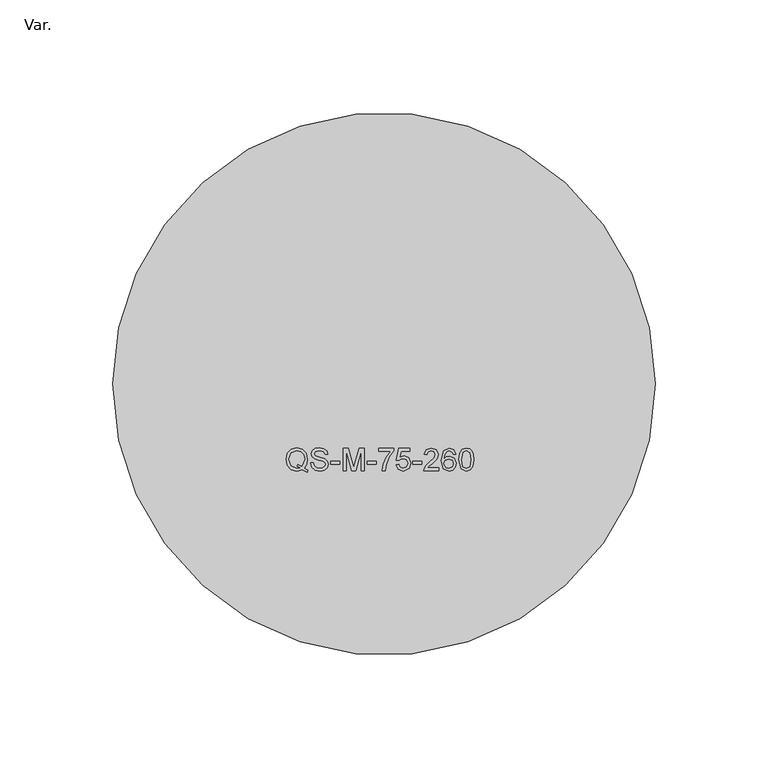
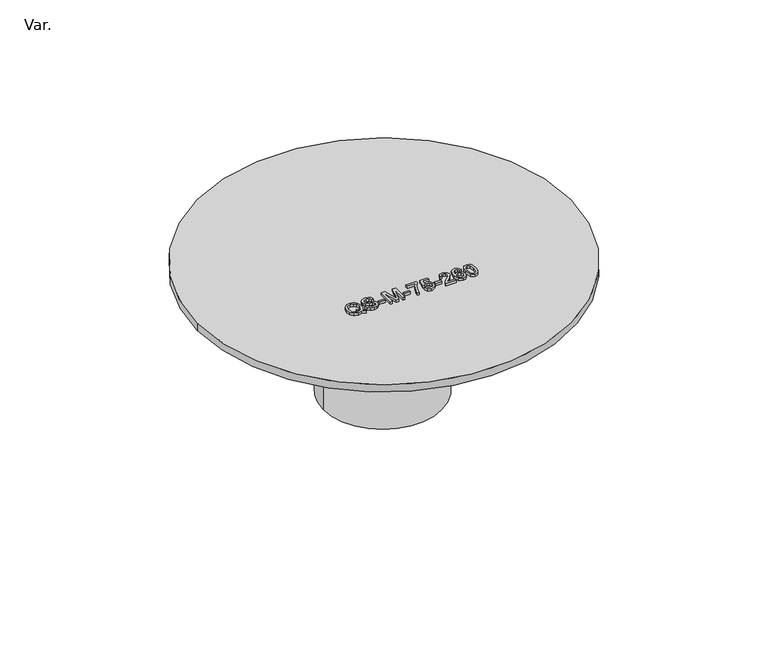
"""IFC4 building model written with IfcOpenShell, lengths in millimetres: sanitary terminal geometry, AmancoWavin_AquipamentosHidráulicos_QSBocaldeCaptação : Var.."""

from ifc_helpers import new_model, si_unit, point, frame, frame_2d, origin, place, context, project, spatial, polyline, circle_curve, ellipse_curve, trimmed, segment, composite_curve, outline, extrude, source, transform, mapped, element, save
from ifc_brep_helpers import plane_surface, cylinder_surface, revolved_surface, advanced_brep


def var_5cb2a67e(model_context):
    return source(origin(), model_context, "Body", "SolidModel", [
        advanced_brep(
        [(36.1500013, 0.0, -61.0), (-36.1500013, 0.0, -61.0), (-38.1500013, 0.0, -63.2980538), (38.1500013, 0.0, -63.2980538), (0.0, 0.0, -61.0), (62.9019224, 0.0, 0.4999995), (-62.9019224, 0.0, 0.4999995), (0.0, 0.0, 0.4999995), (43.4999988, 0.0, -10.7017063), (-43.4999988, 0.0, -10.7017063), (35.9999985, 0.0, -23.692088), (-35.9999985, 0.0, -23.692088), (35.9999985, 0.0, -26.0000021), (-35.9999985, 0.0, -26.0000021), (38.1500013, 0.0, -26.0000021), (-38.1500013, 0.0, -26.0000021), (38.1500013, 0.0, -27.5000014), (-38.1500013, 0.0, -27.5000014), (39.9999991, 0.0, -27.5000014), (-39.9999991, 0.0, -27.5000014), (39.9999991, 0.0, -36.0), (-39.9999991, 0.0, -36.0), (38.1500013, 0.0, -36.0), (-38.1500013, 0.0, -36.0)],
        [
            (0, 1, circle_curve(frame((0.0, 0.0, -61.0), z_axis=(0.0, 0.0, 1.0), x_axis=(-1.0, 0.0, 0.0)), 36.1500013)),
            (1, 2),
            (2, 3, circle_curve(frame((0.0, 0.0, -63.2980538), z_axis=(0.0, 0.0, -1.0), x_axis=(-1.0, 0.0, 0.0)), 38.1500013)),
            (3, 0),
            (1, 0, circle_curve(frame((0.0, 0.0, -61.0), z_axis=(0.0, 0.0, 1.0), x_axis=(-1.0, 0.0, 0.0)), 36.1500013)),
            (3, 2, circle_curve(frame((0.0, 0.0, -63.2980538), z_axis=(0.0, 0.0, -1.0), x_axis=(-1.0, 0.0, 0.0)), 38.1500013)),
            (4, 1),
            (0, 4),
            (5, 6, circle_curve(frame((0.0, 0.0, 0.4999995), z_axis=(0.0, 0.0, 1.0), x_axis=(-1.0, 0.0, 0.0)), 62.9019224)),
            (6, 7),
            (7, 5),
            (6, 5, circle_curve(frame((0.0, 0.0, 0.4999995), z_axis=(0.0, 0.0, 1.0), x_axis=(-1.0, 0.0, 0.0)), 62.9019224)),
            (8, 9, circle_curve(frame((0.0, 0.0, -10.7017063), z_axis=(0.0, 0.0, 1.0), x_axis=(-1.0, 0.0, 0.0)), 43.4999988)),
            (9, 6),
            (5, 8),
            (9, 8, circle_curve(frame((0.0, 0.0, -10.7017063), z_axis=(0.0, 0.0, 1.0), x_axis=(-1.0, 0.0, 0.0)), 43.4999988)),
            (10, 11, circle_curve(frame((0.0, 0.0, -23.692088), z_axis=(0.0, 0.0, 1.0), x_axis=(-1.0, 0.0, 0.0)), 35.9999985)),
            (11, 9, circle_curve(frame((-50.9999992, 0.0, -23.692088), z_axis=(0.0, -1.0, 0.0), x_axis=(1.0, 0.0, 0.0)), 15.0000007)),
            (8, 10, circle_curve(frame((50.9999992, 0.0, -23.692088), z_axis=(0.0, -1.0, 0.0), x_axis=(-1.0, 0.0, 0.0)), 15.0000007)),
            (11, 10, circle_curve(frame((0.0, 0.0, -23.692088), z_axis=(0.0, 0.0, 1.0), x_axis=(-1.0, 0.0, 0.0)), 35.9999985)),
            (12, 13, circle_curve(frame((0.0, 0.0, -26.0000021), z_axis=(0.0, 0.0, 1.0), x_axis=(-1.0, 0.0, 0.0)), 35.9999985)),
            (13, 11),
            (10, 12),
            (13, 12, circle_curve(frame((0.0, 0.0, -26.0000021), z_axis=(0.0, 0.0, 1.0), x_axis=(-1.0, 0.0, 0.0)), 35.9999985)),
            (14, 15, circle_curve(frame((0.0, 0.0, -26.0000021), z_axis=(0.0, 0.0, 1.0), x_axis=(-1.0, 0.0, 0.0)), 38.1500013)),
            (15, 13),
            (12, 14),
            (15, 14, circle_curve(frame((0.0, 0.0, -26.0000021), z_axis=(0.0, 0.0, 1.0), x_axis=(-1.0, 0.0, 0.0)), 38.1500013)),
            (16, 17, circle_curve(frame((0.0, 0.0, -27.5000014), z_axis=(0.0, 0.0, 1.0), x_axis=(-1.0, 0.0, 0.0)), 38.1500013)),
            (17, 15),
            (14, 16),
            (17, 16, circle_curve(frame((0.0, 0.0, -27.5000014), z_axis=(0.0, 0.0, 1.0), x_axis=(-1.0, 0.0, 0.0)), 38.1500013)),
            (18, 19, circle_curve(frame((0.0, 0.0, -27.5000014), z_axis=(0.0, 0.0, 1.0), x_axis=(-1.0, 0.0, 0.0)), 39.9999991)),
            (19, 17),
            (16, 18),
            (19, 18, circle_curve(frame((0.0, 0.0, -27.5000014), z_axis=(0.0, 0.0, 1.0), x_axis=(-1.0, 0.0, 0.0)), 39.9999991)),
            (20, 21, circle_curve(frame((0.0, 0.0, -36.0), z_axis=(0.0, 0.0, 1.0), x_axis=(-1.0, 0.0, 0.0)), 39.9999991)),
            (21, 19),
            (18, 20),
            (21, 20, circle_curve(frame((0.0, 0.0, -36.0), z_axis=(0.0, 0.0, 1.0), x_axis=(-1.0, 0.0, 0.0)), 39.9999991)),
            (22, 23, circle_curve(frame((0.0, 0.0, -36.0), z_axis=(0.0, 0.0, 1.0), x_axis=(-1.0, 0.0, 0.0)), 38.1500013)),
            (23, 21),
            (20, 22),
            (23, 22, circle_curve(frame((0.0, 0.0, -36.0), z_axis=(0.0, 0.0, 1.0), x_axis=(-1.0, 0.0, 0.0)), 38.1500013)),
            (2, 23),
            (22, 3),
        ],
        [
            revolved_surface(polyline([(-38.1500013, 0.0, -63.2980538), (-36.1500013, 0.0, -61.0)]), (0.0, 0.0, -61.0000003), (0.0, 0.0, -1.0)),
            plane_surface(frame((0.0, 0.0, -61.0), z_axis=(0.0, 0.0, -1.0), x_axis=(-1.0, 0.0, 0.0))),
            plane_surface(frame((0.0, 0.0, 0.4999995), z_axis=(0.0, 0.0, 1.0), x_axis=(-1.0, 0.0, 0.0))),
            revolved_surface(polyline([(-62.9019224, 0.0, 0.4999995), (-43.4999988, 0.0, -10.7017063)]), (0.0, 0.0, -61.0000003), (0.0, 0.0, -1.0)),
            revolved_surface(trimmed(ellipse_curve(frame((-50.9999992, 0.0, -23.692088), z_axis=(0.0, 1.0, 0.0), x_axis=(1.0, 0.0, 0.0)), 15.0000007, 15.0000007), [point((-43.4999988, 0.0, -10.7017063))], [point((-35.9999985, 0.0, -23.692088))], True, "CARTESIAN"), (0.0, 0.0, -61.0000003), (0.0, 0.0, -1.0)),
            cylinder_surface(frame((0.0, 0.0, -61.0000003), z_axis=(0.0, 0.0, -1.0), x_axis=(-1.0, 0.0, 0.0)), 35.9999985),
            plane_surface(frame((0.0, 0.0, -26.0000021), z_axis=(0.0, 0.0, 1.0), x_axis=(-1.0, 0.0, 0.0))),
            cylinder_surface(frame((0.0, 0.0, -61.0000003), z_axis=(0.0, 0.0, -1.0), x_axis=(-1.0, 0.0, 0.0)), 38.1500013),
            plane_surface(frame((0.0, 0.0, -27.5000014), z_axis=(0.0, 0.0, 1.0), x_axis=(-1.0, 0.0, 0.0))),
            cylinder_surface(frame((0.0, 0.0, -61.0000003), z_axis=(0.0, 0.0, -1.0), x_axis=(-1.0, 0.0, 0.0)), 39.9999991),
            plane_surface(frame((0.0, 0.0, -36.0), z_axis=(0.0, 0.0, -1.0), x_axis=(-1.0, 0.0, 0.0))),
        ],
        [
            (0, [[1, 2, 3, 4]]),
            (0, [[5, -4, 6, -2]]),
            (1, [[7, -1, 8]]),
            (1, [[-8, -5, -7]]),
            (2, [[9, 10, 11]]),
            (2, [[12, -11, -10]]),
            (3, [[13, 14, -9, 15]]),
            (3, [[16, -15, -12, -14]]),
            (4, [[17, 18, -13, 19]]),
            (4, [[20, -19, -16, -18]]),
            (5, [[21, 22, -17, 23]]),
            (5, [[24, -23, -20, -22]]),
            (6, [[25, 26, -21, 27]]),
            (6, [[28, -27, -24, -26]]),
            (7, [[29, 30, -25, 31]]),
            (7, [[32, -31, -28, -30]]),
            (8, [[33, 34, -29, 35]]),
            (8, [[36, -35, -32, -34]]),
            (9, [[37, 38, -33, 39]]),
            (9, [[40, -39, -36, -38]]),
            (10, [[41, 42, -37, 43]]),
            (10, [[44, -43, -40, -42]]),
            (7, [[-3, 45, -41, 46]]),
            (7, [[-6, -46, -44, -45]]),
        ],
    ),
        extrude(outline(composite_curve([segment(trimmed(circle_curve(frame_2d((0.8526232, 0.0)), 120.0), [point((120.8526232, 0.0))], [point((-119.1473768, 0.0))], False, "CARTESIAN"), True, "CONTINUOUS"), segment(trimmed(circle_curve(frame_2d((0.8526232, 0.0)), 120.0), [point((-119.1473768, 0.0))], [point((120.8526232, 0.0))], False, "CARTESIAN"), True, "CONTINUOUS")], self_intersect=False)), frame((0.0, 0.0, 18.96875), z_axis=(0.0, 0.0, 1.0), x_axis=(1.0, 0.0, 0.0)), (0.0, 0.0, 1.0), 5.0),
        extrude(outline(polyline([(-34.4411637, -37.2095962), (-32.8837966, -38.2568336), (-33.222248, -39.1765386), (-35.2897448, -38.0017687), (-37.7300287, -38.5707596), (-40.1752177, -37.9147033), (-41.8662486, -36.0703883), (-42.4585386, -33.3934336), (-41.8674749, -30.6968586), (-40.1850279, -28.8464122), (-37.7422915, -28.2112026), (-35.2836135, -28.8611274), (-33.6146555, -30.680917), (-33.0407596, -33.3198572), (-33.3890212, -35.5148865), (-34.4411637, -37.2095962)]), holes=[polyline([(-37.3842197, -35.5394119), (-35.4761384, -36.4934526), (-34.2964634, -33.3836234), (-34.7133964, -31.322258), (-35.9335383, -29.953737), (-37.7349338, -29.4669065), (-40.216911, -30.4516039), (-41.2028348, -33.3909811), (-40.2279475, -36.3009277), (-37.7373864, -37.3150557), (-36.3860332, -37.0575383), (-37.7079558, -36.5008102), (-37.3842197, -35.5394119)])]), frame((0.0, 0.0, 23.96875), z_axis=(0.0, 0.0, 1.0), x_axis=(1.0, 0.0, 0.0)), (0.0, 0.0, 1.0), 2.0),
        extrude(outline(polyline([(-31.6280927, -34.9606109), (-30.3723888, -34.9606109), (-29.9677186, -36.2175411), (-28.9793423, -37.0121662), (-27.4734787, -37.3150557), (-26.1613663, -37.0857426), (-25.3140114, -36.4554381), (-25.0356474, -35.6129883), (-25.2441138, -34.8293997), (-26.0976, -34.2591826), (-27.9259736, -33.7797097), (-29.8941422, -33.1604417), (-30.9622263, -32.2260214), (-31.3141667, -30.9776752), (-30.8788397, -29.5564244), (-29.6071943, -28.5533328), (-27.7457114, -28.2112026), (-25.7591486, -28.5692744), (-24.4347734, -29.6214169), (-23.9369065, -31.1934993), (-25.1926103, -31.1934993), (-25.9038489, -29.9034598), (-27.6966605, -29.4669065), (-29.4943771, -29.8985547), (-30.0584629, -30.940887), (-29.6586978, -31.811541), (-27.6083688, -32.5129694), (-25.3863615, -33.1432739), (-24.1711247, -34.1610807), (-23.7799435, -35.5811052), (-24.2299858, -37.08329), (-25.5249304, -38.1795784), (-27.4244278, -38.5707596), (-29.6672817, -38.1489215), (-31.0860799, -36.8785024), (-31.6280927, -34.9606109)])), frame((0.0, 0.0, 23.96875), z_axis=(0.0, 0.0, 1.0), x_axis=(1.0, 0.0, 0.0)), (0.0, 0.0, 1.0), 2.0),
        extrude(outline(polyline([(-22.6812026, -35.4314999), (-22.6812026, -34.175796), (-18.757128, -34.175796), (-18.757128, -35.4314999), (-22.6812026, -35.4314999)])), frame((0.0, 0.0, 23.96875), z_axis=(0.0, 0.0, 1.0), x_axis=(1.0, 0.0, 0.0)), (0.0, 0.0, 1.0), 2.0),
        extrude(outline(polyline([(-17.1874981, -38.4137966), (-17.1874981, -28.3681656), (-15.0268045, -28.3681656), (-12.9715705, -35.4486677), (-12.5570901, -36.9275533), (-12.108274, -35.3260404), (-10.0873756, -28.3681656), (-7.926682, -28.3681656), (-7.926682, -38.4137966), (-9.1823859, -38.4137966), (-9.1823859, -29.6238694), (-11.7060564, -38.4137966), (-13.4081238, -38.4137966), (-15.9317942, -29.6238694), (-15.9317942, -38.4137966), (-17.1874981, -38.4137966)])), frame((0.0, 0.0, 23.96875), z_axis=(0.0, 0.0, 1.0), x_axis=(1.0, 0.0, 0.0)), (0.0, 0.0, 1.0), 2.0),
        extrude(outline(polyline([(-6.5140152, -35.4314999), (-6.5140152, -34.175796), (-2.5899406, -34.175796), (-2.5899406, -35.4314999), (-6.5140152, -35.4314999)])), frame((0.0, 0.0, 23.96875), z_axis=(0.0, 0.0, 1.0), x_axis=(1.0, 0.0, 0.0)), (0.0, 0.0, 1.0), 2.0),
        extrude(outline(polyline([(-1.4911997, -29.7808324), (-1.4911997, -28.5251286), (5.1012457, -28.5251286), (5.1012457, -29.5404829), (3.2311789, -32.241963), (1.8001179, -35.6841122), (1.3341341, -38.4137966), (0.0784302, -38.4137966), (0.5775234, -35.5811052), (1.9472707, -32.3793056), (3.8455418, -29.7808324), (-1.4911997, -29.7808324)])), frame((0.0, 0.0, 23.96875), z_axis=(0.0, 0.0, 1.0), x_axis=(1.0, 0.0, 0.0)), (0.0, 0.0, 1.0), 2.0),
        extrude(outline(polyline([(6.1999866, -35.7454258), (7.4556905, -35.5884629), (8.0884475, -36.8821812), (9.4005599, -37.3150557), (10.9750949, -36.7129555), (11.5367281, -35.1151214), (11.0106568, -33.623973), (9.4201803, -33.0770551), (8.3177606, -33.2953318), (7.6126534, -33.86187), (6.3569496, -33.704907), (7.4556905, -28.5251286), (12.321543, -28.5251286), (12.321543, -29.7808324), (8.4710448, -29.7808324), (7.9339371, -32.547305), (9.7708945, -31.8213512), (11.9180991, -32.7214358), (12.7924319, -35.0366399), (12.0051645, -37.3665592), (9.3956548, -38.5707596), (7.179779, -37.7969811), (6.1999866, -35.7454258)])), frame((0.0, 0.0, 23.96875), z_axis=(0.0, 0.0, 1.0), x_axis=(1.0, 0.0, 0.0)), (0.0, 0.0, 1.0), 2.0),
        extrude(outline(polyline([(13.5772469, -35.4314999), (13.5772469, -34.175796), (17.5013215, -34.175796), (17.5013215, -35.4314999), (13.5772469, -35.4314999)])), frame((0.0, 0.0, 23.96875), z_axis=(0.0, 0.0, 1.0), x_axis=(1.0, 0.0, 0.0)), (0.0, 0.0, 1.0), 2.0),
        extrude(outline(polyline([(25.0355447, -37.1580927), (25.0355447, -38.4137966), (18.4430994, -38.4137966), (18.5779894, -37.5480476), (19.3407315, -36.2150885), (20.9128138, -34.7595021), (23.0808651, -32.6674798), (23.6228779, -31.2450028), (23.1115219, -30.0935321), (21.7761103, -29.6238694), (20.38429, -30.0824957), (19.8557662, -31.3504623), (18.6000624, -31.1934993), (19.5626869, -29.0916668), (21.8030883, -28.3681656), (24.0508473, -29.1726009), (24.8785818, -31.1689738), (24.6554, -32.3596852), (23.9135047, -33.5908636), (22.1145617, -35.3113251), (20.6700117, -36.5192043), (20.1034735, -37.1580927), (25.0355447, -37.1580927)])), frame((0.0, 0.0, 23.96875), z_axis=(0.0, 0.0, 1.0), x_axis=(1.0, 0.0, 0.0)), (0.0, 0.0, 1.0), 2.0),
        extrude(outline(polyline([(32.726731, -31.0365363), (31.4710271, -31.1934993), (30.9952331, -30.1462619), (29.7370766, -29.6238694), (28.6040001, -29.9279852), (27.746835, -31.0696457), (27.3899895, -33.3075945), (28.4973143, -32.3057292), (29.8695142, -31.9783142), (32.0032297, -32.8734937), (32.883694, -35.1862452), (32.4692136, -36.9189694), (31.3287794, -38.1452427), (29.6831206, -38.5707596), (27.1238882, -37.4425881), (26.1342856, -33.7245274), (27.2330265, -29.5135048), (29.8155581, -28.3681656), (31.7996684, -29.0769515), (32.726731, -31.0365363)]), holes=[polyline([(27.3899895, -35.1666248), (27.6806163, -36.2543293), (28.4531685, -37.0440493), (29.5850187, -37.3150557), (31.0651306, -36.7534225), (31.6279901, -35.2279385), (31.0724883, -33.767447), (29.5335153, -33.2340181), (28.0141626, -33.767447), (27.3899895, -35.1666248)])]), frame((0.0, 0.0, 23.96875), z_axis=(0.0, 0.0, 1.0), x_axis=(1.0, 0.0, 0.0)), (0.0, 0.0, 1.0), 2.0),
        extrude(outline(polyline([(33.9824349, -33.4719151), (34.3515431, -30.5815889), (35.4478315, -28.9150835), (37.2786575, -28.3681656), (38.7452804, -28.6919017), (39.7581822, -29.6250957), (40.3467934, -31.111339), (40.5748802, -33.4719151), (40.2094508, -36.3499786), (39.1168412, -38.0201628), (37.2786575, -38.5707596), (34.9830739, -37.6142664), (33.9824349, -33.4719151)]), holes=[polyline([(35.2381387, -33.4694626), (35.8267499, -36.5878756), (37.2786575, -37.3150557), (38.7305651, -36.5854231), (39.3191763, -33.4694626), (38.7501855, -30.3866114), (37.2639423, -29.6238694), (35.8463703, -30.2958672), (35.2381387, -33.4694626)])]), frame((0.0, 0.0, 23.96875), z_axis=(0.0, 0.0, 1.0), x_axis=(1.0, 0.0, 0.0)), (0.0, 0.0, 1.0), 2.0),
    ])


if __name__ == "__main__":
    model = new_model("IFC4")
    model_context = context("Model", 3, world=origin())
    ifc_project = project(units=[si_unit("LENGTHUNIT", "METRE", prefix="MILLI")], contexts=[model_context])
    site = spatial("IfcSite", under=ifc_project)
    building = spatial("IfcBuilding", under=site)
    placement = place(None, origin())
    var_shape = var_5cb2a67e(model_context)
    element("IfcSanitaryTerminal", 1, ObjectType="AmancoWavin_AquipamentosHidráulicos_QSBocaldeCaptação : Var.", at=placement, inside=building, context=model_context, shape_type="MappedRepresentation", body=[
        mapped(var_shape, transform((0.0, 0.0, 0.0), x_axis=(1.0, 0.0, 0.0), y_axis=(0.0, 1.0, 0.0), z_axis=(0.0, 0.0, 1.0))),
    ])
    save(model, "model.ifc")
